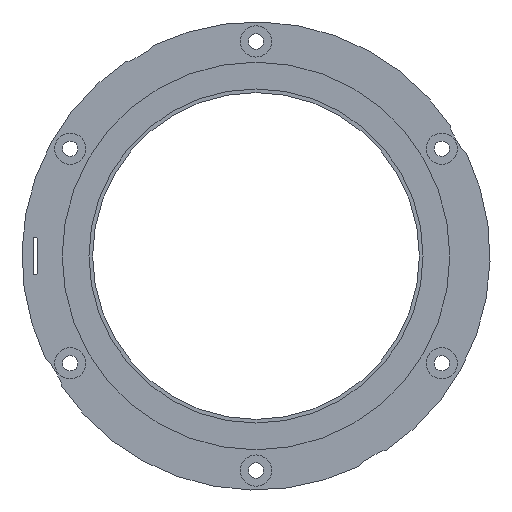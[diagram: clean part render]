
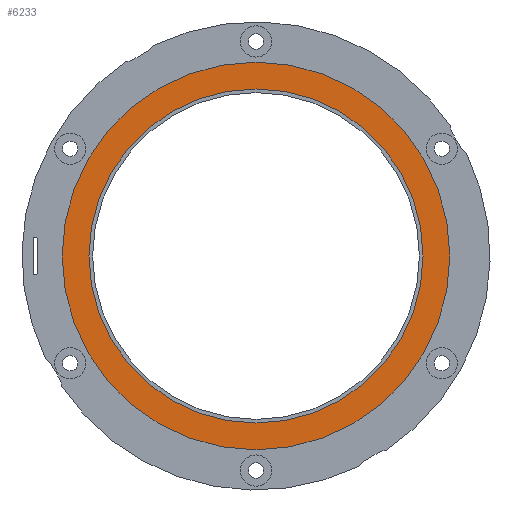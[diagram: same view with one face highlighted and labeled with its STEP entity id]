
A CAD part, front view. The second image highlights one B-rep face of the part: STEP entity #6233.
In plain terms, the highlighted planar face has unit normal (0, -1, 0).
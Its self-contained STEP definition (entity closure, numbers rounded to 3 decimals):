
#2643 = CARTESIAN_POINT ( 'NONE',  ( 0., -1.601, 0. ) ) ;
#3238 = EDGE_CURVE ( 'NONE', #4343, #35942, #10367, .T. ) ;
#4343 = VERTEX_POINT ( 'NONE', #19540 ) ;
#4466 = DIRECTION ( 'NONE',  ( -0.5, 0., 0.866 ) ) ;
#5390 = DIRECTION ( 'NONE',  ( 0., -1., 0. ) ) ;
#6233 = ADVANCED_FACE ( 'NONE', ( #8858, #22090 ), #34913, .T. ) ;
#6601 = CIRCLE ( 'NONE', #84385, 39.75 ) ;
#6826 = ORIENTED_EDGE ( 'NONE', *, *, #45395, .T. ) ;
#7690 = AXIS2_PLACEMENT_3D ( 'NONE', #83513, #37766, #18146 ) ;
#8858 = FACE_OUTER_BOUND ( 'NONE', #16363, .T. ) ;
#10367 = CIRCLE ( 'NONE', #7690, 34.25 ) ;
#13363 = DIRECTION ( 'NONE',  ( -0.5, 0., 0.866 ) ) ;
#15025 = DIRECTION ( 'NONE',  ( 0., -1., 0. ) ) ;
#16363 = EDGE_LOOP ( 'NONE', ( #28789, #6826 ) ) ;
#16877 = CIRCLE ( 'NONE', #53691, 34.25 ) ;
#18146 = DIRECTION ( 'NONE',  ( -0.5, 0., 0.866 ) ) ;
#18628 = EDGE_LOOP ( 'NONE', ( #67392, #63909 ) ) ;
#19540 = CARTESIAN_POINT ( 'NONE',  ( 17.125, -1.601, -29.661 ) ) ;
#22090 = FACE_BOUND ( 'NONE', #18628, .T. ) ;
#23291 = CARTESIAN_POINT ( 'NONE',  ( 0., -1.601, 0. ) ) ;
#23941 = EDGE_CURVE ( 'NONE', #81603, #58436, #6601, .T. ) ;
#26661 = CARTESIAN_POINT ( 'NONE',  ( 0., -1.601, 0. ) ) ;
#26792 = CARTESIAN_POINT ( 'NONE',  ( 19.875, -1.601, -34.425 ) ) ;
#28326 = AXIS2_PLACEMENT_3D ( 'NONE', #83604, #5390, #69948 ) ;
#28789 = ORIENTED_EDGE ( 'NONE', *, *, #23941, .T. ) ;
#34913 = PLANE ( 'NONE',  #28326 ) ;
#35942 = VERTEX_POINT ( 'NONE', #52190 ) ;
#37766 = DIRECTION ( 'NONE',  ( 0., -1., 0. ) ) ;
#41012 = DIRECTION ( 'NONE',  ( -0.5, 0., 0.866 ) ) ;
#45395 = EDGE_CURVE ( 'NONE', #58436, #81603, #56222, .T. ) ;
#52190 = CARTESIAN_POINT ( 'NONE',  ( -17.125, -1.601, 29.661 ) ) ;
#53691 = AXIS2_PLACEMENT_3D ( 'NONE', #2643, #15025, #41012 ) ;
#56163 = DIRECTION ( 'NONE',  ( 0., -1., 0. ) ) ;
#56222 = CIRCLE ( 'NONE', #65852, 39.75 ) ;
#58436 = VERTEX_POINT ( 'NONE', #69721 ) ;
#63909 = ORIENTED_EDGE ( 'NONE', *, *, #79168, .F. ) ;
#65852 = AXIS2_PLACEMENT_3D ( 'NONE', #23291, #56163, #4466 ) ;
#67392 = ORIENTED_EDGE ( 'NONE', *, *, #3238, .F. ) ;
#69721 = CARTESIAN_POINT ( 'NONE',  ( -19.875, -1.601, 34.425 ) ) ;
#69948 = DIRECTION ( 'NONE',  ( -0.5, 0., 0.866 ) ) ;
#79168 = EDGE_CURVE ( 'NONE', #35942, #4343, #16877, .T. ) ;
#79190 = DIRECTION ( 'NONE',  ( 0., -1., 0. ) ) ;
#81603 = VERTEX_POINT ( 'NONE', #26792 ) ;
#83513 = CARTESIAN_POINT ( 'NONE',  ( 0., -1.601, 0. ) ) ;
#83604 = CARTESIAN_POINT ( 'NONE',  ( 0., -1.601, 0. ) ) ;
#84385 = AXIS2_PLACEMENT_3D ( 'NONE', #26661, #79190, #13363 ) ;
